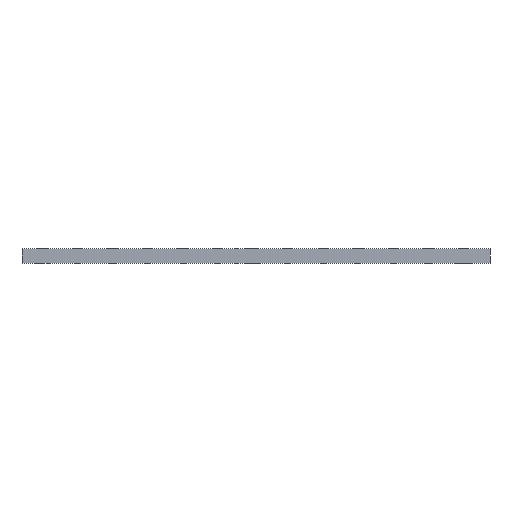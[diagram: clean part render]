
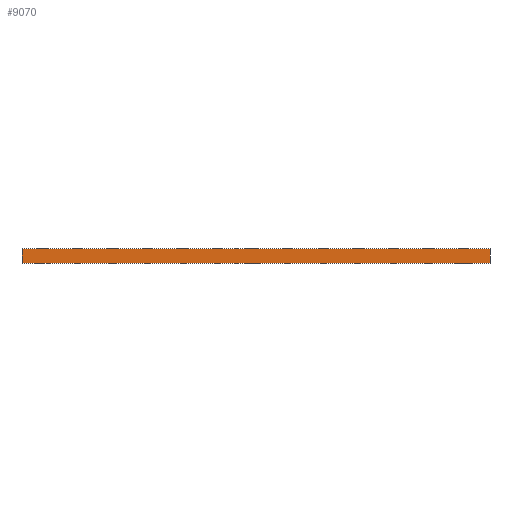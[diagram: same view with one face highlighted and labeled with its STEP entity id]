
A CAD part, front view. The second image highlights one B-rep face of the part: STEP entity #9070.
In plain terms, the highlighted planar face has unit normal (0, -1, 0).
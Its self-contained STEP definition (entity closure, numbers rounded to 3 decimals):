
#687=PLANE('',#10401);
#1257=FACE_OUTER_BOUND('',#2382,.T.);
#2382=EDGE_LOOP('',(#7793,#7794,#7795,#7796));
#2570=LINE('',#13981,#2955);
#2576=LINE('',#14337,#2961);
#2849=LINE('',#15962,#3234);
#2850=LINE('',#15964,#3235);
#2955=VECTOR('',#10826,10.);
#2961=VECTOR('',#11178,10.);
#3234=VECTOR('',#13255,10.);
#3235=VECTOR('',#13258,10.);
#4107=VERTEX_POINT('',#13978);
#4108=VERTEX_POINT('',#13980);
#4283=VERTEX_POINT('',#14331);
#4285=VERTEX_POINT('',#14335);
#4882=EDGE_CURVE('',#4107,#4108,#2570,.T.);
#5060=EDGE_CURVE('',#4283,#4285,#2576,.T.);
#5783=EDGE_CURVE('',#4285,#4108,#2849,.T.);
#5784=EDGE_CURVE('',#4283,#4107,#2850,.T.);
#7793=ORIENTED_EDGE('',*,*,#5060,.T.);
#7794=ORIENTED_EDGE('',*,*,#5783,.T.);
#7795=ORIENTED_EDGE('',*,*,#4882,.F.);
#7796=ORIENTED_EDGE('',*,*,#5784,.F.);
#9070=ADVANCED_FACE('',(#1257),#687,.T.);
#10401=AXIS2_PLACEMENT_3D('',#15963,#13256,#13257);
#10826=DIRECTION('',(1.,0.,0.));
#11178=DIRECTION('',(1.,0.,0.));
#13255=DIRECTION('',(0.,0.,1.));
#13256=DIRECTION('center_axis',(0.,-1.,0.));
#13257=DIRECTION('ref_axis',(1.,0.,0.));
#13258=DIRECTION('',(0.,0.,1.));
#13978=CARTESIAN_POINT('',(-300.,0.,19.));
#13980=CARTESIAN_POINT('',(300.,0.,19.));
#13981=CARTESIAN_POINT('',(-300.,0.,19.));
#14331=CARTESIAN_POINT('',(-300.,0.,0.));
#14335=CARTESIAN_POINT('',(300.,0.,0.));
#14337=CARTESIAN_POINT('',(-300.,0.,0.));
#15962=CARTESIAN_POINT('',(300.,0.,0.));
#15963=CARTESIAN_POINT('Origin',(-300.,0.,0.));
#15964=CARTESIAN_POINT('',(-300.,0.,0.));
